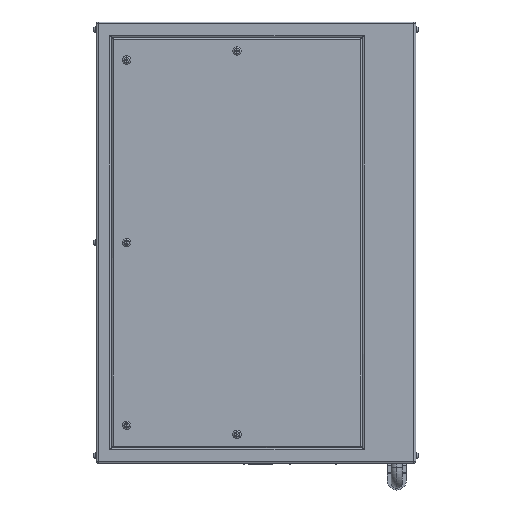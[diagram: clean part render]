
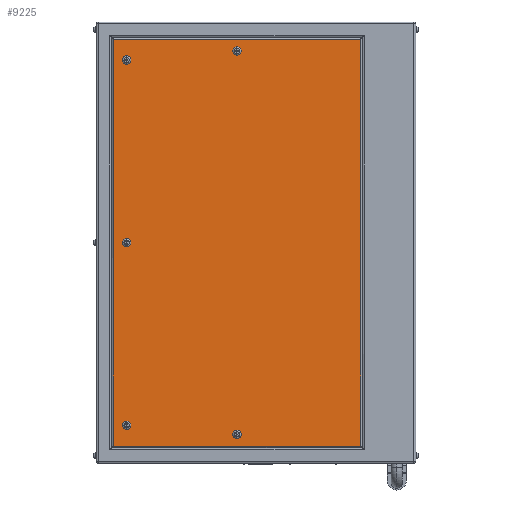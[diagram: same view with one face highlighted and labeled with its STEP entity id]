
A CAD part, left-side view. The second image highlights one B-rep face of the part: STEP entity #9225.
In plain terms, the highlighted planar face has unit normal (-1, 0, 0).
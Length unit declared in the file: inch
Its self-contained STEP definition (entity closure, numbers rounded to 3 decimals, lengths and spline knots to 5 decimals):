
#487 = CARTESIAN_POINT ( 'NONE',  ( -12., 17., -0.55 ) ) ;
#568 = VECTOR ( 'NONE', #2518, 39.37008 ) ;
#645 = CIRCLE ( 'NONE', #1038, 0.55 ) ;
#704 = ORIENTED_EDGE ( 'NONE', *, *, #15720, .T. ) ;
#924 = EDGE_CURVE ( 'NONE', #1923, #12646, #2021, .T. ) ;
#1038 = AXIS2_PLACEMENT_3D ( 'NONE', #10832, #16434, #9032 ) ;
#1086 = DIRECTION ( 'NONE',  ( 0., 0., 1. ) ) ;
#1205 = LINE ( 'NONE', #2754, #10891 ) ;
#1273 = DIRECTION ( 'NONE',  ( 1., 0., 0. ) ) ;
#1364 = AXIS2_PLACEMENT_3D ( 'NONE', #18022, #9163, #7032 ) ;
#1486 = EDGE_LOOP ( 'NONE', ( #4833, #16043, #9158, #7618 ) ) ;
#1791 = DIRECTION ( 'NONE',  ( 0., 0., -1. ) ) ;
#1923 = VERTEX_POINT ( 'NONE', #6247 ) ;
#2021 = CIRCLE ( 'NONE', #5811, 0.55 ) ;
#2274 = VERTEX_POINT ( 'NONE', #15124 ) ;
#2518 = DIRECTION ( 'NONE',  ( 0., 0., 1. ) ) ;
#2682 = CARTESIAN_POINT ( 'NONE',  ( -12., 2.5, -25.74 ) ) ;
#2754 = CARTESIAN_POINT ( 'NONE',  ( -12., 21., -26.74 ) ) ;
#3265 = CIRCLE ( 'NONE', #19229, 0.55 ) ;
#3740 = VECTOR ( 'NONE', #13251, 39.37008 ) ;
#3810 = FACE_BOUND ( 'NONE', #15812, .T. ) ;
#3930 = PLANE ( 'NONE',  #9498 ) ;
#4036 = CIRCLE ( 'NONE', #11586, 0.55 ) ;
#4200 = DIRECTION ( 'NONE',  ( 1., 0., 0. ) ) ;
#4684 = VERTEX_POINT ( 'NONE', #23400 ) ;
#4833 = ORIENTED_EDGE ( 'NONE', *, *, #22931, .T. ) ;
#5041 = EDGE_CURVE ( 'NONE', #4684, #14557, #645, .T. ) ;
#5498 = EDGE_CURVE ( 'NONE', #12551, #19290, #19359, .T. ) ;
#5529 = ORIENTED_EDGE ( 'NONE', *, *, #17728, .T. ) ;
#5591 = DIRECTION ( 'NONE',  ( 1., 0., 0. ) ) ;
#5605 = DIRECTION ( 'NONE',  ( 1., 0., 0. ) ) ;
#5811 = AXIS2_PLACEMENT_3D ( 'NONE', #8168, #19287, #21072 ) ;
#6022 = ORIENTED_EDGE ( 'NONE', *, *, #5498, .T. ) ;
#6030 = CARTESIAN_POINT ( 'NONE',  ( -12., 21., -29. ) ) ;
#6065 = DIRECTION ( 'NONE',  ( 0., 0., -1. ) ) ;
#6207 = DIRECTION ( 'NONE',  ( 0., 0., -1. ) ) ;
#6247 = CARTESIAN_POINT ( 'NONE',  ( -12., 17., 24.55 ) ) ;
#6419 = LINE ( 'NONE', #13667, #568 ) ;
#6994 = VERTEX_POINT ( 'NONE', #21645 ) ;
#7032 = DIRECTION ( 'NONE',  ( 0., 0., 1. ) ) ;
#7248 = CIRCLE ( 'NONE', #15586, 0.55 ) ;
#7569 = CIRCLE ( 'NONE', #16339, 0.55 ) ;
#7574 = DIRECTION ( 'NONE',  ( 0., 0., -1. ) ) ;
#7618 = ORIENTED_EDGE ( 'NONE', *, *, #16959, .T. ) ;
#7809 = CARTESIAN_POINT ( 'NONE',  ( -12., 17., 0.55 ) ) ;
#7893 = LINE ( 'NONE', #20926, #3740 ) ;
#8168 = CARTESIAN_POINT ( 'NONE',  ( -12., 17., 24. ) ) ;
#8378 = LINE ( 'NONE', #15633, #17960 ) ;
#9032 = DIRECTION ( 'NONE',  ( 0., 0., -1. ) ) ;
#9041 = AXIS2_PLACEMENT_3D ( 'NONE', #20991, #11904, #1086 ) ;
#9042 = EDGE_CURVE ( 'NONE', #10409, #16863, #7248, .T. ) ;
#9158 = ORIENTED_EDGE ( 'NONE', *, *, #23449, .T. ) ;
#9163 = DIRECTION ( 'NONE',  ( 1., 0., 0. ) ) ;
#9225 = ADVANCED_FACE ( 'NONE', ( #18452, #22232, #14709, #18571, #3810, #20263 ), #3930, .F. ) ;
#9498 = AXIS2_PLACEMENT_3D ( 'NONE', #6030, #11140, #7574 ) ;
#10215 = DIRECTION ( 'NONE',  ( 0., -1., 0. ) ) ;
#10409 = VERTEX_POINT ( 'NONE', #20029 ) ;
#10725 = CARTESIAN_POINT ( 'NONE',  ( -12., 17., -24. ) ) ;
#10832 = CARTESIAN_POINT ( 'NONE',  ( -12., 2.5, 25.19 ) ) ;
#10881 = VERTEX_POINT ( 'NONE', #18288 ) ;
#10891 = VECTOR ( 'NONE', #10215, 39.37008 ) ;
#11054 = EDGE_LOOP ( 'NONE', ( #21073, #5529 ) ) ;
#11140 = DIRECTION ( 'NONE',  ( 1., 0., 0. ) ) ;
#11586 = AXIS2_PLACEMENT_3D ( 'NONE', #10725, #5591, #1791 ) ;
#11811 = DIRECTION ( 'NONE',  ( 0., 0., -1. ) ) ;
#11904 = DIRECTION ( 'NONE',  ( 1., 0., 0. ) ) ;
#12045 = AXIS2_PLACEMENT_3D ( 'NONE', #18956, #4200, #6065 ) ;
#12551 = VERTEX_POINT ( 'NONE', #20413 ) ;
#12646 = VERTEX_POINT ( 'NONE', #17083 ) ;
#12827 = EDGE_CURVE ( 'NONE', #22902, #21568, #3265, .T. ) ;
#12833 = DIRECTION ( 'NONE',  ( 0., 0., -1. ) ) ;
#12977 = EDGE_CURVE ( 'NONE', #19290, #12551, #15414, .T. ) ;
#13013 = ORIENTED_EDGE ( 'NONE', *, *, #12827, .T. ) ;
#13251 = DIRECTION ( 'NONE',  ( 0., 1., 0. ) ) ;
#13667 = CARTESIAN_POINT ( 'NONE',  ( -12., -13.74, -29. ) ) ;
#13934 = ORIENTED_EDGE ( 'NONE', *, *, #924, .T. ) ;
#14309 = AXIS2_PLACEMENT_3D ( 'NONE', #15733, #22775, #11811 ) ;
#14557 = VERTEX_POINT ( 'NONE', #19017 ) ;
#14709 = FACE_BOUND ( 'NONE', #18408, .T. ) ;
#14726 = EDGE_CURVE ( 'NONE', #21568, #22902, #22318, .T. ) ;
#14983 = CARTESIAN_POINT ( 'NONE',  ( -12., 17., 0. ) ) ;
#15124 = CARTESIAN_POINT ( 'NONE',  ( -12., 18.74, 26.74 ) ) ;
#15414 = CIRCLE ( 'NONE', #1364, 0.55 ) ;
#15586 = AXIS2_PLACEMENT_3D ( 'NONE', #22371, #5605, #12833 ) ;
#15633 = CARTESIAN_POINT ( 'NONE',  ( -12., 18.74, -29. ) ) ;
#15720 = EDGE_CURVE ( 'NONE', #12646, #1923, #7569, .T. ) ;
#15733 = CARTESIAN_POINT ( 'NONE',  ( -12., 2.5, 25.19 ) ) ;
#15812 = EDGE_LOOP ( 'NONE', ( #704, #13934 ) ) ;
#16043 = ORIENTED_EDGE ( 'NONE', *, *, #22155, .T. ) ;
#16339 = AXIS2_PLACEMENT_3D ( 'NONE', #19983, #1273, #17957 ) ;
#16411 = ORIENTED_EDGE ( 'NONE', *, *, #12977, .T. ) ;
#16434 = DIRECTION ( 'NONE',  ( 1., 0., 0. ) ) ;
#16654 = ORIENTED_EDGE ( 'NONE', *, *, #14726, .T. ) ;
#16863 = VERTEX_POINT ( 'NONE', #21975 ) ;
#16959 = EDGE_CURVE ( 'NONE', #2274, #10881, #8378, .T. ) ;
#17083 = CARTESIAN_POINT ( 'NONE',  ( -12., 17., 23.45 ) ) ;
#17728 = EDGE_CURVE ( 'NONE', #14557, #4684, #18153, .T. ) ;
#17957 = DIRECTION ( 'NONE',  ( 0., 0., -1. ) ) ;
#17960 = VECTOR ( 'NONE', #21026, 39.37008 ) ;
#18022 = CARTESIAN_POINT ( 'NONE',  ( -12., 2.5, -25.19 ) ) ;
#18153 = CIRCLE ( 'NONE', #14309, 0.55 ) ;
#18288 = CARTESIAN_POINT ( 'NONE',  ( -12., 18.74, -26.74 ) ) ;
#18408 = EDGE_LOOP ( 'NONE', ( #18520, #23510 ) ) ;
#18452 = FACE_BOUND ( 'NONE', #19879, .T. ) ;
#18520 = ORIENTED_EDGE ( 'NONE', *, *, #9042, .T. ) ;
#18571 = FACE_BOUND ( 'NONE', #19397, .T. ) ;
#18956 = CARTESIAN_POINT ( 'NONE',  ( -12., 17., 0. ) ) ;
#19017 = CARTESIAN_POINT ( 'NONE',  ( -12., 2.5, 25.74 ) ) ;
#19229 = AXIS2_PLACEMENT_3D ( 'NONE', #14983, #20536, #6207 ) ;
#19287 = DIRECTION ( 'NONE',  ( 1., 0., 0. ) ) ;
#19290 = VERTEX_POINT ( 'NONE', #2682 ) ;
#19359 = CIRCLE ( 'NONE', #9041, 0.55 ) ;
#19397 = EDGE_LOOP ( 'NONE', ( #13013, #16654 ) ) ;
#19879 = EDGE_LOOP ( 'NONE', ( #16411, #6022 ) ) ;
#19983 = CARTESIAN_POINT ( 'NONE',  ( -12., 17., 24. ) ) ;
#20029 = CARTESIAN_POINT ( 'NONE',  ( -12., 17., -24.55 ) ) ;
#20263 = FACE_OUTER_BOUND ( 'NONE', #1486, .T. ) ;
#20361 = CARTESIAN_POINT ( 'NONE',  ( -12., -13.74, 26.74 ) ) ;
#20413 = CARTESIAN_POINT ( 'NONE',  ( -12., 2.5, -24.64 ) ) ;
#20502 = VERTEX_POINT ( 'NONE', #20361 ) ;
#20536 = DIRECTION ( 'NONE',  ( 1., 0., 0. ) ) ;
#20926 = CARTESIAN_POINT ( 'NONE',  ( -12., 21., 26.74 ) ) ;
#20991 = CARTESIAN_POINT ( 'NONE',  ( -12., 2.5, -25.19 ) ) ;
#21026 = DIRECTION ( 'NONE',  ( 0., 0., -1. ) ) ;
#21072 = DIRECTION ( 'NONE',  ( 0., 0., -1. ) ) ;
#21073 = ORIENTED_EDGE ( 'NONE', *, *, #5041, .T. ) ;
#21568 = VERTEX_POINT ( 'NONE', #7809 ) ;
#21645 = CARTESIAN_POINT ( 'NONE',  ( -12., -13.74, -26.74 ) ) ;
#21975 = CARTESIAN_POINT ( 'NONE',  ( -12., 17., -23.45 ) ) ;
#22155 = EDGE_CURVE ( 'NONE', #6994, #20502, #6419, .T. ) ;
#22232 = FACE_BOUND ( 'NONE', #11054, .T. ) ;
#22318 = CIRCLE ( 'NONE', #12045, 0.55 ) ;
#22330 = EDGE_CURVE ( 'NONE', #16863, #10409, #4036, .T. ) ;
#22371 = CARTESIAN_POINT ( 'NONE',  ( -12., 17., -24. ) ) ;
#22775 = DIRECTION ( 'NONE',  ( 1., 0., 0. ) ) ;
#22902 = VERTEX_POINT ( 'NONE', #487 ) ;
#22931 = EDGE_CURVE ( 'NONE', #10881, #6994, #1205, .T. ) ;
#23400 = CARTESIAN_POINT ( 'NONE',  ( -12., 2.5, 24.64 ) ) ;
#23449 = EDGE_CURVE ( 'NONE', #20502, #2274, #7893, .T. ) ;
#23510 = ORIENTED_EDGE ( 'NONE', *, *, #22330, .T. ) ;
